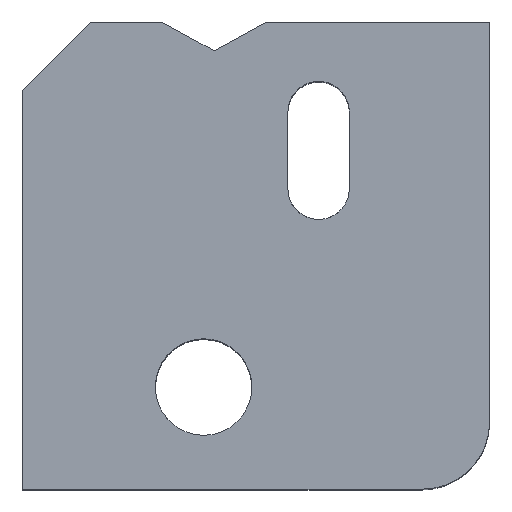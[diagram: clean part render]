
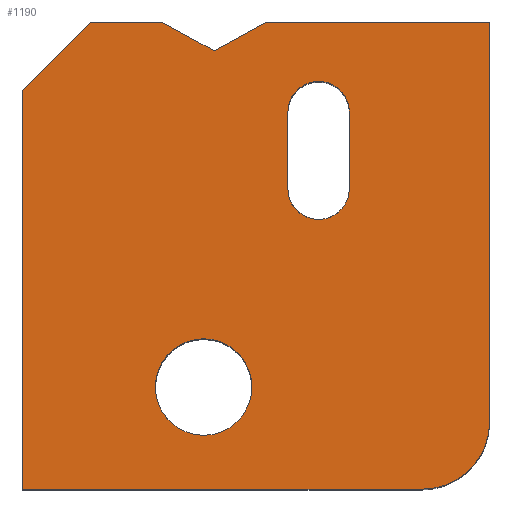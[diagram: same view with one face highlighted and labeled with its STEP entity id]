
A CAD part, top view. The second image highlights one B-rep face of the part: STEP entity #1190.
In plain terms, the highlighted planar face has unit normal (0, 0, 1).
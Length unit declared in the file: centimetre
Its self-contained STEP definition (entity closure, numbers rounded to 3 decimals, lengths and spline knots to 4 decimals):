
#9 = CARTESIAN_POINT ( 'NONE',  ( 1000., 1000., 1000. ) ) ;
#30 = CARTESIAN_POINT ( 'NONE',  ( 1000., 1000., 1000. ) ) ;
#34 = EDGE_CURVE ( 'NONE', #1642, #1070, #371, .T. ) ;
#40 = CARTESIAN_POINT ( 'NONE',  ( 410.3058, 938.4846, 1000. ) ) ;
#49 = LINE ( 'NONE', #519, #1344 ) ;
#52 = ORIENTED_EDGE ( 'NONE', *, *, #1459, .T. ) ;
#54 = VECTOR ( 'NONE', #1547, 100. ) ;
#59 = ORIENTED_EDGE ( 'NONE', *, *, #82, .F. ) ;
#69 = EDGE_CURVE ( 'NONE', #1818, #1325, #514, .T. ) ;
#78 = LINE ( 'NONE', #1844, #1432 ) ;
#82 = EDGE_CURVE ( 'NONE', #1193, #366, #954, .T. ) ;
#96 = CIRCLE ( 'NONE', #953, 144.1787 ) ;
#104 = EDGE_CURVE ( 'NONE', #1834, #1507, #409, .T. ) ;
#145 = CARTESIAN_POINT ( 'NONE',  ( 855.8213, 144.1787, 1000. ) ) ;
#148 = EDGE_CURVE ( 'NONE', #366, #1642, #165, .T. ) ;
#155 = CARTESIAN_POINT ( 'NONE',  ( 634.0235, 807.1195, 1000. ) ) ;
#165 = CIRCLE ( 'NONE', #1552, 65.7872 ) ;
#167 = DIRECTION ( 'NONE',  ( 0., 0., 1. ) ) ;
#175 = DIRECTION ( 'NONE',  ( 0., 0., 1. ) ) ;
#194 = PLANE ( 'NONE',  #657 ) ;
#201 = EDGE_CURVE ( 'NONE', #211, #732, #96, .T. ) ;
#205 = VERTEX_POINT ( 'NONE', #30 ) ;
#209 = EDGE_CURVE ( 'NONE', #732, #205, #302, .T. ) ;
#211 = VERTEX_POINT ( 'NONE', #588 ) ;
#223 = CARTESIAN_POINT ( 'NONE',  ( 568.2362, 643.2001, 1000. ) ) ;
#278 = ORIENTED_EDGE ( 'NONE', *, *, #1373, .T. ) ;
#302 = LINE ( 'NONE', #9, #1755 ) ;
#307 = CARTESIAN_POINT ( 'NONE',  ( 387.9191, 218.6815, 1000. ) ) ;
#317 = DIRECTION ( 'NONE',  ( 1., 0., 0. ) ) ;
#334 = ORIENTED_EDGE ( 'NONE', *, *, #34, .F. ) ;
#356 = ORIENTED_EDGE ( 'NONE', *, *, #209, .T. ) ;
#365 = DIRECTION ( 'NONE',  ( 1., 0., 0. ) ) ;
#366 = VERTEX_POINT ( 'NONE', #1694 ) ;
#371 = LINE ( 'NONE', #485, #54 ) ;
#375 = CARTESIAN_POINT ( 'NONE',  ( 0., 0., 1000. ) ) ;
#390 = DIRECTION ( 'NONE',  ( -0.877, 0.48, 0. ) ) ;
#409 = LINE ( 'NONE', #556, #1302 ) ;
#414 = DIRECTION ( 'NONE',  ( -1., 0., 0. ) ) ;
#416 = VECTOR ( 'NONE', #1276, 100. ) ;
#427 = DIRECTION ( 'NONE',  ( 1., 0., 0. ) ) ;
#428 = ORIENTED_EDGE ( 'NONE', *, *, #1295, .T. ) ;
#438 = LINE ( 'NONE', #1314, #416 ) ;
#449 = CARTESIAN_POINT ( 'NONE',  ( 284.6128, 218.6815, 1000. ) ) ;
#476 = LINE ( 'NONE', #40, #1458 ) ;
#485 = CARTESIAN_POINT ( 'NONE',  ( 699.8107, 807.1195, 1000. ) ) ;
#488 = ORIENTED_EDGE ( 'NONE', *, *, #1909, .F. ) ;
#513 = VECTOR ( 'NONE', #390, 100. ) ;
#514 = CIRCLE ( 'NONE', #544, 103.3063 ) ;
#519 = CARTESIAN_POINT ( 'NONE',  ( -427.0473, 427.0473, 1000. ) ) ;
#544 = AXIS2_PLACEMENT_3D ( 'NONE', #1247, #1845, #365 ) ;
#556 = CARTESIAN_POINT ( 'NONE',  ( 0., 1000., 1000. ) ) ;
#588 = CARTESIAN_POINT ( 'NONE',  ( 855.8213, 0., 1000. ) ) ;
#622 = DIRECTION ( 'NONE',  ( -0.877, -0.48, 0. ) ) ;
#652 = DIRECTION ( 'NONE',  ( -1., 0., 0. ) ) ;
#657 = AXIS2_PLACEMENT_3D ( 'NONE', #375, #1532, #1116 ) ;
#729 = DIRECTION ( 'NONE',  ( 0., 0., 1. ) ) ;
#731 = DIRECTION ( 'NONE',  ( 0., 1., 0. ) ) ;
#732 = VERTEX_POINT ( 'NONE', #1904 ) ;
#740 = CARTESIAN_POINT ( 'NONE',  ( 699.8107, 807.1195, 1000. ) ) ;
#744 = ORIENTED_EDGE ( 'NONE', *, *, #69, .F. ) ;
#781 = AXIS2_PLACEMENT_3D ( 'NONE', #155, #729, #1040 ) ;
#800 = CARTESIAN_POINT ( 'NONE',  ( 145.9053, 1000., 1000. ) ) ;
#811 = VECTOR ( 'NONE', #1735, 100. ) ;
#826 = CARTESIAN_POINT ( 'NONE',  ( 0., 0., 1000. ) ) ;
#897 = FACE_BOUND ( 'NONE', #1842, .T. ) ;
#953 = AXIS2_PLACEMENT_3D ( 'NONE', #145, #175, #1181 ) ;
#954 = LINE ( 'NONE', #223, #811 ) ;
#994 = CIRCLE ( 'NONE', #1133, 103.3063 ) ;
#1025 = EDGE_CURVE ( 'NONE', #1070, #1193, #1816, .T. ) ;
#1032 = LINE ( 'NONE', #826, #1223 ) ;
#1040 = DIRECTION ( 'NONE',  ( -1., 0., 0. ) ) ;
#1049 = CARTESIAN_POINT ( 'NONE',  ( 522.6041, 1000., 1000. ) ) ;
#1070 = VERTEX_POINT ( 'NONE', #740 ) ;
#1110 = DIRECTION ( 'NONE',  ( -0.707, -0.707, 0. ) ) ;
#1116 = DIRECTION ( 'NONE',  ( 1., 0., 0. ) ) ;
#1127 = CARTESIAN_POINT ( 'NONE',  ( 491.2254, 218.6815, 1000. ) ) ;
#1133 = AXIS2_PLACEMENT_3D ( 'NONE', #307, #167, #317 ) ;
#1150 = DIRECTION ( 'NONE',  ( 0., 0., 1. ) ) ;
#1151 = ORIENTED_EDGE ( 'NONE', *, *, #1281, .T. ) ;
#1181 = DIRECTION ( 'NONE',  ( 1., 0., 0. ) ) ;
#1186 = CARTESIAN_POINT ( 'NONE',  ( 0., 854.0947, 1000. ) ) ;
#1190 = ADVANCED_FACE ( 'NONE', ( #1510, #897, #1806 ), #194, .T. ) ;
#1193 = VERTEX_POINT ( 'NONE', #1827 ) ;
#1195 = EDGE_LOOP ( 'NONE', ( #1812, #59, #1493, #334 ) ) ;
#1202 = VERTEX_POINT ( 'NONE', #1675 ) ;
#1223 = VECTOR ( 'NONE', #427, 100. ) ;
#1247 = CARTESIAN_POINT ( 'NONE',  ( 387.9191, 218.6815, 1000. ) ) ;
#1259 = EDGE_LOOP ( 'NONE', ( #1805, #278, #428, #1400, #52, #1613, #356, #1151, #1561 ) ) ;
#1276 = DIRECTION ( 'NONE',  ( -1., 0., 0. ) ) ;
#1281 = EDGE_CURVE ( 'NONE', #205, #1640, #78, .T. ) ;
#1295 = EDGE_CURVE ( 'NONE', #1600, #1834, #49, .T. ) ;
#1302 = VECTOR ( 'NONE', #1572, 100. ) ;
#1314 = CARTESIAN_POINT ( 'NONE',  ( 0., 1000., 1000. ) ) ;
#1325 = VERTEX_POINT ( 'NONE', #449 ) ;
#1344 = VECTOR ( 'NONE', #1110, 100. ) ;
#1373 = EDGE_CURVE ( 'NONE', #1480, #1600, #438, .T. ) ;
#1400 = ORIENTED_EDGE ( 'NONE', *, *, #104, .T. ) ;
#1406 = CARTESIAN_POINT ( 'NONE',  ( 699.8107, 643.2001, 1000. ) ) ;
#1432 = VECTOR ( 'NONE', #652, 100. ) ;
#1441 = CARTESIAN_POINT ( 'NONE',  ( 0., 0., 1000. ) ) ;
#1458 = VECTOR ( 'NONE', #622, 100. ) ;
#1459 = EDGE_CURVE ( 'NONE', #1507, #211, #1032, .T. ) ;
#1480 = VERTEX_POINT ( 'NONE', #1865 ) ;
#1493 = ORIENTED_EDGE ( 'NONE', *, *, #1025, .F. ) ;
#1507 = VERTEX_POINT ( 'NONE', #1441 ) ;
#1510 = FACE_BOUND ( 'NONE', #1195, .T. ) ;
#1532 = DIRECTION ( 'NONE',  ( 0., 0., 1. ) ) ;
#1547 = DIRECTION ( 'NONE',  ( 0., 1., 0. ) ) ;
#1552 = AXIS2_PLACEMENT_3D ( 'NONE', #1889, #1150, #414 ) ;
#1561 = ORIENTED_EDGE ( 'NONE', *, *, #1725, .T. ) ;
#1571 = LINE ( 'NONE', #1719, #513 ) ;
#1572 = DIRECTION ( 'NONE',  ( 0., -1., 0. ) ) ;
#1600 = VERTEX_POINT ( 'NONE', #800 ) ;
#1613 = ORIENTED_EDGE ( 'NONE', *, *, #201, .T. ) ;
#1640 = VERTEX_POINT ( 'NONE', #1049 ) ;
#1642 = VERTEX_POINT ( 'NONE', #1406 ) ;
#1675 = CARTESIAN_POINT ( 'NONE',  ( 410.3058, 938.4846, 1000. ) ) ;
#1694 = CARTESIAN_POINT ( 'NONE',  ( 568.2362, 643.2001, 1000. ) ) ;
#1719 = CARTESIAN_POINT ( 'NONE',  ( 298.0075, 1000., 1000. ) ) ;
#1725 = EDGE_CURVE ( 'NONE', #1640, #1202, #476, .T. ) ;
#1735 = DIRECTION ( 'NONE',  ( 0., -1., 0. ) ) ;
#1755 = VECTOR ( 'NONE', #731, 100. ) ;
#1805 = ORIENTED_EDGE ( 'NONE', *, *, #1819, .T. ) ;
#1806 = FACE_OUTER_BOUND ( 'NONE', #1259, .T. ) ;
#1812 = ORIENTED_EDGE ( 'NONE', *, *, #148, .F. ) ;
#1816 = CIRCLE ( 'NONE', #781, 65.7872 ) ;
#1818 = VERTEX_POINT ( 'NONE', #1127 ) ;
#1819 = EDGE_CURVE ( 'NONE', #1202, #1480, #1571, .T. ) ;
#1827 = CARTESIAN_POINT ( 'NONE',  ( 568.2362, 807.1195, 1000. ) ) ;
#1834 = VERTEX_POINT ( 'NONE', #1186 ) ;
#1842 = EDGE_LOOP ( 'NONE', ( #744, #488 ) ) ;
#1844 = CARTESIAN_POINT ( 'NONE',  ( 0., 1000., 1000. ) ) ;
#1845 = DIRECTION ( 'NONE',  ( 0., 0., 1. ) ) ;
#1865 = CARTESIAN_POINT ( 'NONE',  ( 298.0075, 1000., 1000. ) ) ;
#1889 = CARTESIAN_POINT ( 'NONE',  ( 634.0235, 643.2001, 1000. ) ) ;
#1904 = CARTESIAN_POINT ( 'NONE',  ( 1000., 144.1787, 1000. ) ) ;
#1909 = EDGE_CURVE ( 'NONE', #1325, #1818, #994, .T. ) ;
